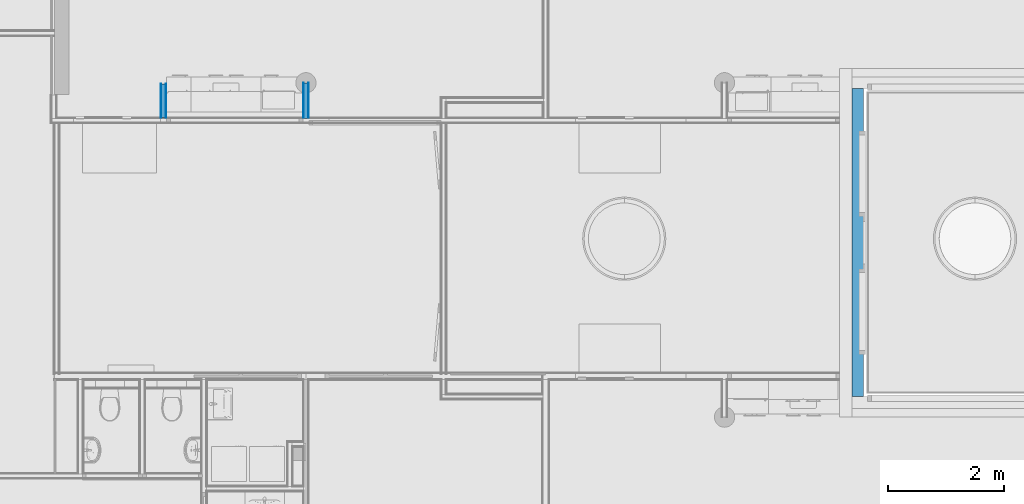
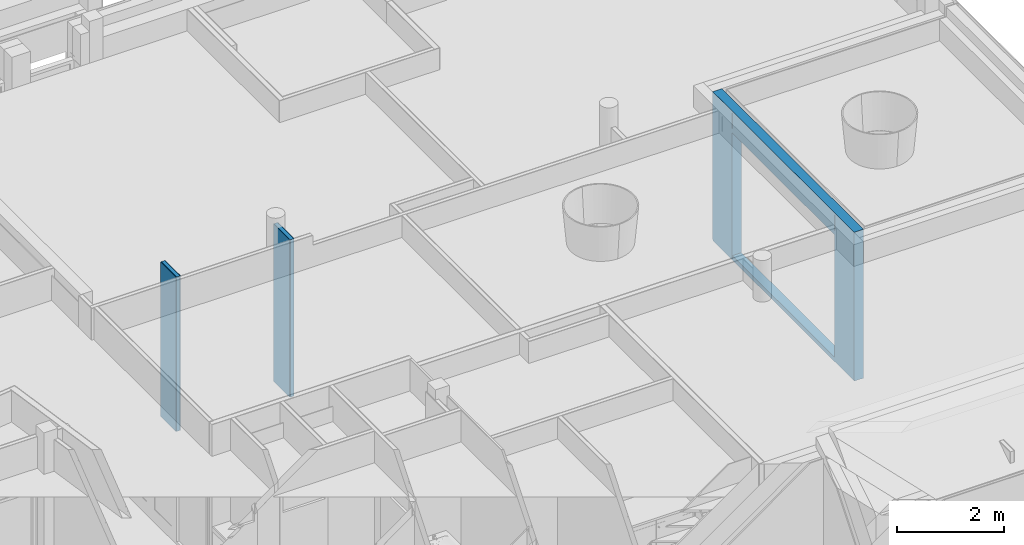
# One storey, part 74 of 167: 7 building element parts, 1 opening, 3 elements without a shape of their own.
"""IFC2X3 building model written with IfcOpenShell, lengths in millimetres."""

from ifc_helpers import new_model, entity, si_unit, converted_unit, derived_unit, money_unit, direction, frame, origin_with_axes, place, context, subcontext, project, spatial, faceted_brep, material, type_object, element, aggregate, save


model = new_model("IFC2X3")

# Units and contexts
model_context = context("Model", 3, precision=0.01, world=origin_with_axes(), true_north=direction((0.0, 1.0)))
plan_context = context("Plan", 3, precision=0.01, world=origin_with_axes(), true_north=direction((0.0, 1.0)))
body_context = subcontext(model_context, "Body", "Model", "MODEL_VIEW")
ifc_project = project(units=[si_unit("LENGTHUNIT", "METRE", prefix="MILLI"), si_unit("AREAUNIT", "SQUARE_METRE"), si_unit("VOLUMEUNIT", "CUBIC_METRE"), converted_unit("PLANEANGLEUNIT", "DEGREE", entity("IfcPlaneAngleMeasure", 0.0174532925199), si_unit("PLANEANGLEUNIT", "RADIAN"), dimensions=[0, 0, 0, 0, 0, 0, 0]), si_unit("SOLIDANGLEUNIT", "STERADIAN"), money_unit("EUR"), converted_unit("TIMEUNIT", "Year", entity("IfcTimeMeasure", 31556926.0), si_unit("TIMEUNIT", "SECOND"), dimensions=[0, 0, 1, 0, 0, 0, 0]), si_unit("MASSUNIT", "GRAM", prefix="KILO"), si_unit("THERMODYNAMICTEMPERATUREUNIT", "DEGREE_CELSIUS"), si_unit("LUMINOUSINTENSITYUNIT", "LUMEN"), si_unit("ENERGYUNIT", "JOULE", prefix="MEGA"), derived_unit("THERMALCONDUCTANCEUNIT", [(si_unit("POWERUNIT", "WATT"), 1), (si_unit("LENGTHUNIT", "METRE"), -1), (si_unit("THERMODYNAMICTEMPERATUREUNIT", "KELVIN"), -1)]), derived_unit("SPECIFICHEATCAPACITYUNIT", [(si_unit("ENERGYUNIT", "JOULE"), 1), (si_unit("MASSUNIT", "GRAM", prefix="KILO"), -1), (si_unit("THERMODYNAMICTEMPERATUREUNIT", "KELVIN"), -1)]), derived_unit("MASSDENSITYUNIT", [(si_unit("MASSUNIT", "GRAM", prefix="KILO"), 1), (si_unit("VOLUMEUNIT", "CUBIC_METRE"), -1)])], contexts=[model_context, plan_context])

# Site, building, storey
site_placement = place(None, origin_with_axes())
site = spatial("IfcSite", under=ifc_project, at=site_placement, Name="Site", CompositionType="ELEMENT")
building_placement = place(site_placement, origin_with_axes())
building = spatial("IfcBuilding", under=site, at=building_placement, Name="Naam gebouw", CompositionType="ELEMENT")
storey_placement = place(building_placement, origin_with_axes())
storey = spatial("IfcBuildingStorey", under=building, at=storey_placement, Name="Begane grond", CompositionType="ELEMENT", Elevation=0.0)

# Wall, opening, building element part
wall_type_1 = type_object("IfcWallType", Name="_TenW_21_Spouwmuur ht-kz-214- RC 4,7 488", PredefinedType="NOTDEFINED")
wall_1_placement = place(storey_placement, frame((38189.0, 36749.9999919, -100.0), z_axis=(0.0, 0.0, 1.0), x_axis=(0.0, 1.0, 0.0)))
wall_1 = element("IfcWall", 1, at=wall_1_placement, inside=storey, type_object=wall_type_1, Name="21_Wand_Wand-x")
opening_placement = place(wall_1_placement, frame((2849.86894772, 0.0, 100.0), z_axis=(0.0, 0.0, 1.0), x_axis=(1.0, 0.0, 0.0)))
element("IfcOpeningElement", 2, at=opening_placement, cuts=wall_1, Name="32_Deur_He-02", context=body_context, shape_type="Brep", body=[
    faceted_brep([(-1919.925, 702.0, 2800.0), (-1919.925, 702.0, 0.0), (-1919.925, -234.0, 0.0), (-1919.925, -234.0, 2800.0), (1919.925, 702.0, 2800.0), (1919.925, 702.0, 0.0), (1919.925, -234.0, 0.0), (1919.925, -234.0, 2800.0)], [[[0, 1, 2, 3]], [[0, 4, 5, 1]], [[1, 5, 6, 2]], [[3, 2, 6, 7]], [[4, 0, 3, 7]], [[5, 4, 7, 6]]]),
    faceted_brep([(-1919.925, -762.0, 0.0), (-1919.925, -762.0, 2800.0), (-1919.925, -234.0, 2800.0), (-1919.925, -234.0, 0.0), (1919.925, -762.0, 0.0), (1919.925, -762.0, 2800.0), (1919.925, -234.0, 2800.0), (1919.925, -234.0, 0.0)], [[[0, 1, 2, 3]], [[0, 4, 5, 1]], [[1, 5, 6, 2]], [[3, 2, 6, 7]], [[4, 0, 3, 7]], [[5, 4, 7, 6]]]),
])
ifc_material_1 = material(Name="Isolatie - Steenwol zacht")
building_element_part_1_placement = place(wall_1_placement, origin_with_axes())
building_element_part_1 = element("IfcBuildingElementPart", 3, at=building_element_part_1_placement, material=ifc_material_1, Name="Isolatie - Steenwol zacht", context=body_context, shape_type="Brep", body=[
    faceted_brep([(4769.79394772, 0.0, 2900.0), (4769.79394772, -3.66471820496, 2900.0), (4769.79394772, -3.66471820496, 2910.0), (4769.79394772, 0.0, 2910.0), (4769.79394772, -200.0, 100.0), (4769.79394772, -200.0, 2900.0), (4769.79394772, 0.0, 100.0), (4769.79394772, -3.39995391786, 100.0), (3669.79394772, -3.66471820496, 2900.0), (3669.79394772, -3.66471820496, 2910.0), (3669.79394772, 0.0, 2910.0), (3669.79394772, 0.0, 2900.0), (2029.94394772, 0.0, 2900.0), (2029.94394772, 0.0, 2910.0), (929.943947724, 0.0, 2910.0), (929.943947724, 0.0, 2900.0), (929.943947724, 0.0, 100.0), (929.943947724, 0.0, 30.0), (200.0, 0.0, 30.0), (200.0, 0.0, 3405.0), (5500.00000805, 0.0, 3405.0), (5500.00000805, 0.0, 30.0), (4769.79394772, 0.0, 30.0), (4764.79394772, 0.0, 3009.99995741), (4769.79394772, 0.0, 3009.99995741), (4769.79394772, 0.0, 3359.99995741), (4764.79394772, 0.0, 3359.99995741), (3664.79394772, 0.0, 3009.99995741), (3669.79394772, 0.0, 3009.99995741), (3669.79394772, 0.0, 3359.99995741), (3664.79394772, 0.0, 3359.99995741), (2024.94394772, 0.0, 3009.99995741), (2029.94394772, 0.0, 3009.99995741), (2029.94394772, 0.0, 3359.99995741), (2024.94394772, 0.0, 3359.99995741), (924.943947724, 0.0, 3009.99995741), (929.943947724, 0.0, 3009.99995741), (929.943947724, 0.0, 3359.99995741), (924.943947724, 0.0, 3359.99995741), (200.0, -200.0, 3405.0), (200.0, -200.0, 0.0), (5500.00000805, -200.0, 0.0), (5500.00000805, -200.0, 3405.0), (3664.79394772, -200.0, 3400.0), (4769.79394772, -200.0, 3400.0), (4769.79394772, -200.0, 3390.0), (3664.79394772, -200.0, 3390.0), (924.943947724, -200.0, 3400.0), (2029.94394772, -200.0, 3400.0), (2029.94394772, -200.0, 3390.0), (924.943947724, -200.0, 3390.0), (929.943947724, -200.0, 100.0), (929.943947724, -200.0, 2900.0), (929.943947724, -3.66471820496, 2900.0), (2029.94394772, -3.66471820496, 2900.0), (4769.79394772, -3.39995391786, 30.0), (929.943947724, -3.39995391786, 100.0), (2029.94394772, -3.66471820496, 2910.0), (929.943947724, -3.66471820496, 2910.0), (929.943947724, -3.39995391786, 30.0), (200.0, -3.39995391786, 30.0), (200.0, -3.39995391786, 0.0), (5500.00000805, -3.39995391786, 0.0), (5500.00000805, -3.39995391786, 30.0), (4764.79394772, -16.0, 3009.99995741), (4769.79394772, -16.0, 3009.99995741), (4769.79394772, -16.0, 3359.99995741), (4764.79394772, -16.0, 3359.99995741), (3664.79394772, -16.0, 3009.99995741), (3669.79394772, -16.0, 3009.99995741), (3669.79394772, -16.0, 3359.99995741), (3664.79394772, -16.0, 3359.99995741), (2024.94394772, -16.0, 3009.99995741), (2029.94394772, -16.0, 3009.99995741), (2029.94394772, -16.0, 3359.99995741), (2024.94394772, -16.0, 3359.99995741), (924.943947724, -16.0, 3009.99995741), (929.943947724, -16.0, 3009.99995741), (929.943947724, -16.0, 3359.99995741), (924.943947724, -16.0, 3359.99995741), (3664.79394772, -16.0, 3400.0), (4769.79394772, -16.0, 3400.0), (4769.79394772, -16.0, 3390.0), (3664.79394772, -16.0, 3390.0), (924.943947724, -16.0, 3400.0), (2029.94394772, -16.0, 3400.0), (2029.94394772, -16.0, 3390.0), (924.943947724, -16.0, 3390.0)], [[[0, 1, 2, 3]], [[4, 5, 1, 0, 6, 7]], [[1, 8, 9, 2]], [[3, 2, 9, 10]], [[6, 0, 3, 10, 11, 12, 13, 14, 15, 16, 17, 18, 19, 20, 21, 22], [23, 24, 25, 26], [27, 28, 29, 30], [31, 32, 33, 34], [35, 36, 37, 38]], [[39, 40, 41, 42], [43, 44, 45, 46], [47, 48, 49, 50], [51, 52, 5, 4]], [[5, 52, 53, 54, 12, 11, 8, 1]], [[7, 6, 22, 55]], [[51, 4, 7, 56]], [[8, 11, 10, 9]], [[12, 54, 57, 13]], [[13, 57, 58, 14]], [[53, 15, 14, 58]], [[52, 51, 56, 16, 15, 53]], [[16, 56, 59, 17]], [[59, 60, 18, 17]], [[60, 61, 40, 39, 19, 18]], [[42, 20, 19, 39]], [[62, 63, 21, 20, 42, 41]], [[22, 21, 63, 55]], [[24, 23, 64, 65]], [[25, 24, 65, 66]], [[26, 25, 66, 67]], [[23, 26, 67, 64]], [[28, 27, 68, 69]], [[29, 28, 69, 70]], [[30, 29, 70, 71]], [[27, 30, 71, 68]], [[32, 31, 72, 73]], [[33, 32, 73, 74]], [[34, 33, 74, 75]], [[31, 34, 75, 72]], [[36, 35, 76, 77]], [[37, 36, 77, 78]], [[38, 37, 78, 79]], [[35, 38, 79, 76]], [[62, 41, 40, 61]], [[43, 80, 81, 44]], [[44, 81, 82, 45]], [[45, 82, 83, 46]], [[46, 83, 80, 43]], [[47, 84, 85, 48]], [[48, 85, 86, 49]], [[49, 86, 87, 50]], [[50, 87, 84, 47]], [[54, 53, 58, 57]], [[56, 7, 55, 63, 62, 61, 60, 59]], [[64, 67, 66, 65]], [[68, 71, 70, 69]], [[72, 75, 74, 73]], [[76, 79, 78, 77]], [[81, 80, 83, 82]], [[85, 84, 87, 86]]]),
    faceted_brep([(4751.79394772, -16.0, 2990.0), (4751.79394772, -16.0, 2980.0), (4751.79394772, -176.0, 2980.0), (4751.79394772, -176.0, 2990.0), (3682.79394772, -16.0, 2990.0), (3682.79394772, -16.0, 2980.0), (3682.79394772, -176.0, 2980.0), (3682.79394772, -176.0, 2990.0)], [[[0, 1, 2, 3]], [[4, 5, 1, 0]], [[5, 6, 2, 1]], [[3, 2, 6, 7]], [[4, 0, 3, 7]], [[7, 6, 5, 4]]]),
    faceted_brep([(2011.94394772, -16.0, 2990.0), (2011.94394772, -16.0, 2980.0), (2011.94394772, -176.0, 2980.0), (2011.94394772, -176.0, 2990.0), (942.943947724, -16.0, 2990.0), (942.943947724, -16.0, 2980.0), (942.943947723, -176.0, 2980.0), (942.943947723, -176.0, 2990.0)], [[[0, 1, 2, 3]], [[4, 5, 1, 0]], [[5, 6, 2, 1]], [[3, 2, 6, 7]], [[4, 0, 3, 7]], [[7, 6, 5, 4]]]),
])
aggregate(wall_1, [building_element_part_1])

# Wall, building element parts
wall_type_2 = type_object("IfcWallType", Name="_TenW_22_Metalstud 100 enkel gipsvezelplaat 100", PredefinedType="NOTDEFINED")
wall_2_placement = place(storey_placement, frame((28800.0, 41700.0, -100.0), z_axis=(0.0, 0.0, 1.0), x_axis=(0.0, 1.0, 0.0)))
wall_2 = element("IfcWall", 4, at=wall_2_placement, inside=storey, type_object=wall_type_2, Name="22_Wand_Wand-x")
ifc_material_2 = material(Name="Gipsplaat watervast")
building_element_part_2_placement = place(wall_2_placement, origin_with_axes())
building_element_part_2 = element("IfcBuildingElementPart", 5, at=building_element_part_2_placement, material=ifc_material_2, Name="Gipsplaat watervast", context=body_context, shape_type="Brep", body=[
    faceted_brep([(50.0, 37.5, 30.0), (650.0, 37.5, 30.0), (650.0, 37.5, 3629.99999752), (50.0, 37.5, 3629.99999752), (650.0, 50.0, 30.0), (50.0, 50.0, 30.0), (650.0, 50.0, 3629.99999752), (50.0, 50.0, 3629.99999752)], [[[0, 1, 2, 3]], [[4, 1, 0, 5]], [[1, 4, 6, 2]], [[3, 2, 6, 7]], [[5, 0, 3, 7]], [[4, 5, 7, 6]]]),
])
building_element_part_3_placement = place(wall_2_placement, origin_with_axes())
building_element_part_3 = element("IfcBuildingElementPart", 6, at=building_element_part_3_placement, material=ifc_material_1, Name="Isolatie - Steenwol zacht", context=body_context, shape_type="Brep", body=[
    faceted_brep([(37.5, -37.5, 30.0), (650.0, -37.5, 30.0), (650.0, -37.5, 3629.99999752), (37.5, -37.5, 3629.99999752), (650.0, 37.5, 30.0), (37.5, 37.5, 30.0), (650.0, 37.5, 3629.99999752), (37.5, 37.5, 3629.99999752)], [[[0, 1, 2, 3]], [[4, 1, 0, 5]], [[1, 4, 6, 2]], [[3, 2, 6, 7]], [[5, 0, 3, 7]], [[4, 5, 7, 6]]]),
])
building_element_part_4_placement = place(wall_2_placement, origin_with_axes())
building_element_part_4 = element("IfcBuildingElementPart", 7, at=building_element_part_4_placement, material=ifc_material_2, Name="Gipsplaat watervast", context=body_context, shape_type="Brep", body=[
    faceted_brep([(50.0, -50.0, 30.0), (650.0, -50.0, 30.0), (650.0, -50.0, 3629.99999752), (50.0, -50.0, 3629.99999752), (650.0, -37.5, 30.0), (50.0, -37.5, 30.0), (650.0, -37.5, 3629.99999752), (50.0, -37.5, 3629.99999752)], [[[0, 1, 2, 3]], [[4, 1, 0, 5]], [[1, 4, 6, 2]], [[3, 2, 6, 7]], [[5, 0, 3, 7]], [[4, 5, 7, 6]]]),
])
aggregate(wall_2, [building_element_part_2, building_element_part_3, building_element_part_4])

wall_3_placement = place(storey_placement, frame((26350.0, 41750.0, 0.0), z_axis=(0.0, 0.0, 1.0), x_axis=(0.0, 1.0, 0.0)))
wall_3 = element("IfcWall", 8, at=wall_3_placement, inside=storey, type_object=wall_type_2, Name="22_Wand_Wand-x")
building_element_part_5_placement = place(wall_3_placement, origin_with_axes())
building_element_part_5 = element("IfcBuildingElementPart", 9, at=building_element_part_5_placement, material=ifc_material_2, Name="Gipsplaat watervast", context=body_context, shape_type="Brep", body=[
    faceted_brep([(580.0, 50.0, 3530.0), (580.0, 37.5, 3530.0), (580.0, 37.5, 0.0), (580.0, 50.0, 0.0), (0.0, 37.5, 3530.0), (0.0, 50.0, 3530.0), (0.0, 37.5, 0.0), (0.0, 50.0, 0.0)], [[[0, 1, 2, 3]], [[4, 1, 0, 5]], [[1, 4, 6, 2]], [[7, 3, 2, 6]], [[5, 0, 3, 7]], [[4, 5, 7, 6]]]),
])
building_element_part_6_placement = place(wall_3_placement, origin_with_axes())
building_element_part_6 = element("IfcBuildingElementPart", 10, at=building_element_part_6_placement, material=ifc_material_1, Name="Isolatie - Steenwol zacht", context=body_context, shape_type="Brep", body=[
    faceted_brep([(580.0, 37.5, 3530.0), (580.0, -37.5, 3530.0), (580.0, -37.5, 0.0), (580.0, 37.5, 0.0), (0.0, -37.5, 3530.0), (0.0, 37.5, 3530.0), (0.0, -37.5, 0.0), (0.0, 37.5, 0.0)], [[[0, 1, 2, 3]], [[4, 1, 0, 5]], [[1, 4, 6, 2]], [[7, 3, 2, 6]], [[5, 0, 3, 7]], [[4, 5, 7, 6]]]),
])
building_element_part_7_placement = place(wall_3_placement, origin_with_axes())
building_element_part_7 = element("IfcBuildingElementPart", 11, at=building_element_part_7_placement, material=ifc_material_2, Name="Gipsplaat watervast", context=body_context, shape_type="Brep", body=[
    faceted_brep([(580.0, -37.5, 3530.0), (580.0, -50.0, 3530.0), (580.0, -50.0, 0.0), (580.0, -37.5, 0.0), (0.0, -50.0, 3530.0), (0.0, -37.5, 3530.0), (0.0, -50.0, 0.0), (0.0, -37.5, 0.0)], [[[0, 1, 2, 3]], [[4, 1, 0, 5]], [[1, 4, 6, 2]], [[7, 3, 2, 6]], [[5, 0, 3, 7]], [[4, 5, 7, 6]]]),
])
aggregate(wall_3, [building_element_part_5, building_element_part_6, building_element_part_7])

save(model, "model.ifc")
